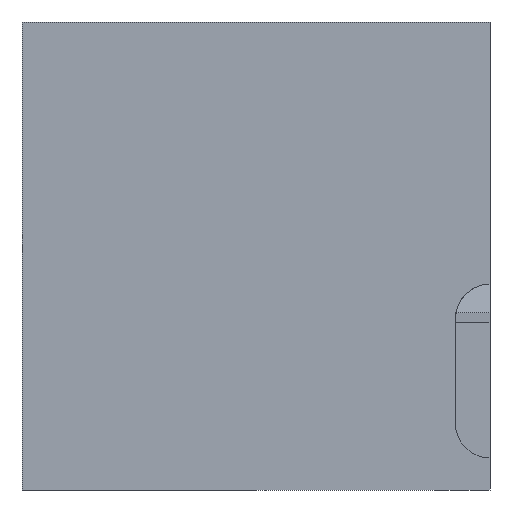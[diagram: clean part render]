
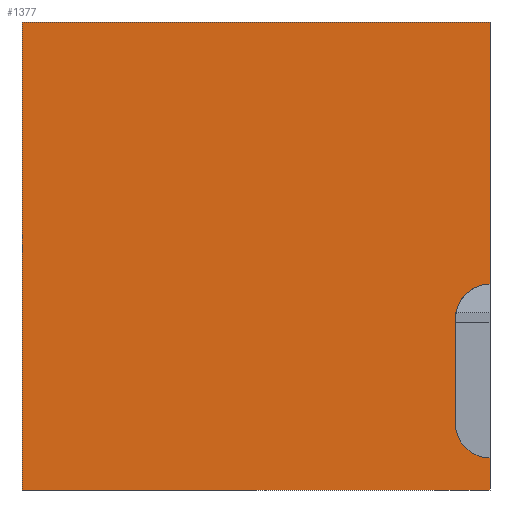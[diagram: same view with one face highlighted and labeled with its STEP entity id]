
A CAD part, left-side view. The second image highlights one B-rep face of the part: STEP entity #1377.
In plain terms, the highlighted planar face has unit normal (-1, 0, 0).
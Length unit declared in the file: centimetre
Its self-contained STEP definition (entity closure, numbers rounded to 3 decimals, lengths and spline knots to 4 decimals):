
#4 = EDGE_CURVE ( 'NONE', #816, #443, #1048, .T. ) ;
#34 = EDGE_CURVE ( 'NONE', #1209, #401, #327, .T. ) ;
#119 = CARTESIAN_POINT ( 'NONE',  ( 0., 1000., 1000. ) ) ;
#134 = DIRECTION ( 'NONE',  ( 0., 0., -1. ) ) ;
#143 = CARTESIAN_POINT ( 'NONE',  ( 0., 73.8997, 142.2781 ) ) ;
#146 = VERTEX_POINT ( 'NONE', #350 ) ;
#157 = CARTESIAN_POINT ( 'NONE',  ( 0., 0., 366.044 ) ) ;
#175 = AXIS2_PLACEMENT_3D ( 'NONE', #1143, #1342, #1367 ) ;
#204 = VECTOR ( 'NONE', #205, 100. ) ;
#205 = DIRECTION ( 'NONE',  ( 0., -1., 0. ) ) ;
#223 = CARTESIAN_POINT ( 'NONE',  ( 0., 1000., 1000. ) ) ;
#242 = AXIS2_PLACEMENT_3D ( 'NONE', #157, #576, #1152 ) ;
#255 = PLANE ( 'NONE',  #175 ) ;
#272 = CARTESIAN_POINT ( 'NONE',  ( 0., 1000., 0. ) ) ;
#279 = AXIS2_PLACEMENT_3D ( 'NONE', #447, #1017, #1324 ) ;
#294 = CARTESIAN_POINT ( 'NONE',  ( 0., 1000., 1000. ) ) ;
#300 = LINE ( 'NONE', #294, #204 ) ;
#314 = VERTEX_POINT ( 'NONE', #453 ) ;
#327 = LINE ( 'NONE', #119, #784 ) ;
#341 = ORIENTED_EDGE ( 'NONE', *, *, #479, .F. ) ;
#350 = CARTESIAN_POINT ( 'NONE',  ( 0., 73.8997, 366.044 ) ) ;
#401 = VERTEX_POINT ( 'NONE', #272 ) ;
#442 = LINE ( 'NONE', #766, #726 ) ;
#443 = VERTEX_POINT ( 'NONE', #977 ) ;
#447 = CARTESIAN_POINT ( 'NONE',  ( 0., 0., 142.2781 ) ) ;
#451 = EDGE_CURVE ( 'NONE', #1209, #793, #300, .T. ) ;
#453 = CARTESIAN_POINT ( 'NONE',  ( 0., 0., 439.9437 ) ) ;
#462 = VERTEX_POINT ( 'NONE', #1071 ) ;
#466 = CIRCLE ( 'NONE', #242, 73.8997 ) ;
#479 = EDGE_CURVE ( 'NONE', #793, #314, #1195, .T. ) ;
#519 = ORIENTED_EDGE ( 'NONE', *, *, #717, .T. ) ;
#576 = DIRECTION ( 'NONE',  ( -1., 0., 0. ) ) ;
#582 = VECTOR ( 'NONE', #1220, 100. ) ;
#647 = ORIENTED_EDGE ( 'NONE', *, *, #34, .T. ) ;
#674 = LINE ( 'NONE', #791, #582 ) ;
#696 = ORIENTED_EDGE ( 'NONE', *, *, #451, .F. ) ;
#717 = EDGE_CURVE ( 'NONE', #401, #462, #674, .T. ) ;
#726 = VECTOR ( 'NONE', #1211, 100. ) ;
#766 = CARTESIAN_POINT ( 'NONE',  ( 0., 0., 1000. ) ) ;
#780 = DIRECTION ( 'NONE',  ( 0., 0., -1. ) ) ;
#784 = VECTOR ( 'NONE', #780, 100. ) ;
#791 = CARTESIAN_POINT ( 'NONE',  ( 0., 1000., 0. ) ) ;
#793 = VERTEX_POINT ( 'NONE', #920 ) ;
#816 = VERTEX_POINT ( 'NONE', #143 ) ;
#853 = DIRECTION ( 'NONE',  ( 0., 0., -1. ) ) ;
#898 = FACE_OUTER_BOUND ( 'NONE', #926, .T. ) ;
#920 = CARTESIAN_POINT ( 'NONE',  ( 0., 0., 1000. ) ) ;
#926 = EDGE_LOOP ( 'NONE', ( #1249, #1016, #1047, #1330, #341, #696, #647, #519 ) ) ;
#977 = CARTESIAN_POINT ( 'NONE',  ( 0., 0., 68.3783 ) ) ;
#1016 = ORIENTED_EDGE ( 'NONE', *, *, #4, .F. ) ;
#1017 = DIRECTION ( 'NONE',  ( -1., 0., 0. ) ) ;
#1036 = LINE ( 'NONE', #1128, #1058 ) ;
#1047 = ORIENTED_EDGE ( 'NONE', *, *, #1325, .F. ) ;
#1048 = CIRCLE ( 'NONE', #279, 73.8997 ) ;
#1058 = VECTOR ( 'NONE', #134, 100. ) ;
#1071 = CARTESIAN_POINT ( 'NONE',  ( 0., 0., 0. ) ) ;
#1128 = CARTESIAN_POINT ( 'NONE',  ( 0., 73.8997, 366.044 ) ) ;
#1143 = CARTESIAN_POINT ( 'NONE',  ( 0., 1000., 1000. ) ) ;
#1149 = EDGE_CURVE ( 'NONE', #443, #462, #442, .T. ) ;
#1152 = DIRECTION ( 'NONE',  ( 0., 0., 1. ) ) ;
#1188 = CARTESIAN_POINT ( 'NONE',  ( 0., 0., 1000. ) ) ;
#1195 = LINE ( 'NONE', #1188, #1388 ) ;
#1209 = VERTEX_POINT ( 'NONE', #223 ) ;
#1211 = DIRECTION ( 'NONE',  ( 0., 0., -1. ) ) ;
#1220 = DIRECTION ( 'NONE',  ( 0., -1., 0. ) ) ;
#1249 = ORIENTED_EDGE ( 'NONE', *, *, #1149, .F. ) ;
#1303 = EDGE_CURVE ( 'NONE', #314, #146, #466, .T. ) ;
#1324 = DIRECTION ( 'NONE',  ( 0., 0., 1. ) ) ;
#1325 = EDGE_CURVE ( 'NONE', #146, #816, #1036, .T. ) ;
#1330 = ORIENTED_EDGE ( 'NONE', *, *, #1303, .F. ) ;
#1342 = DIRECTION ( 'NONE',  ( 1., 0., 0. ) ) ;
#1367 = DIRECTION ( 'NONE',  ( 0., 0., -1. ) ) ;
#1377 = ADVANCED_FACE ( 'NONE', ( #898 ), #255, .F. ) ;
#1388 = VECTOR ( 'NONE', #853, 100. ) ;
